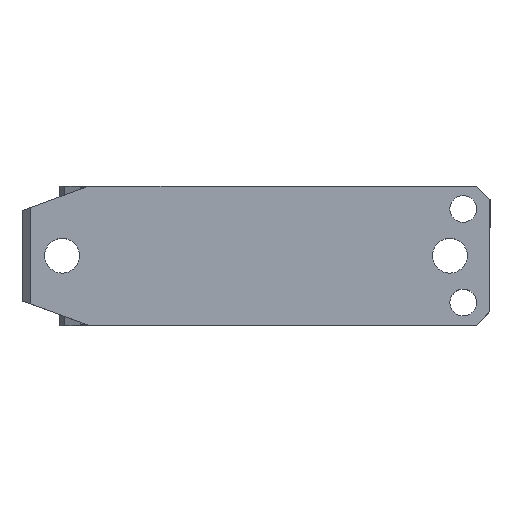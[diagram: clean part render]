
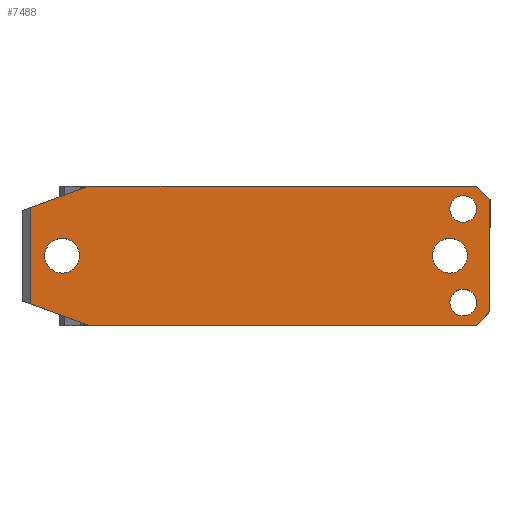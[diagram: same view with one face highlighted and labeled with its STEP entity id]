
A CAD part, top view. The second image highlights one B-rep face of the part: STEP entity #7488.
In plain terms, the highlighted planar face has unit normal (0, 0, 1).
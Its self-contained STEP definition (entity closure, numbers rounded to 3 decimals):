
#48 = LINE ( 'NONE', #1650, #9694 ) ;
#92 = ORIENTED_EDGE ( 'NONE', *, *, #5907, .F. ) ;
#173 = CARTESIAN_POINT ( 'NONE',  ( -2., 26., 125. ) ) ;
#316 = VERTEX_POINT ( 'NONE', #1385 ) ;
#355 = VERTEX_POINT ( 'NONE', #4183 ) ;
#535 = VERTEX_POINT ( 'NONE', #6760 ) ;
#564 = EDGE_LOOP ( 'NONE', ( #6400, #4810 ) ) ;
#631 = CARTESIAN_POINT ( 'NONE',  ( -27., 16.901, 125. ) ) ;
#697 = DIRECTION ( 'NONE',  ( -0.707, -0.707, 0. ) ) ;
#714 = VERTEX_POINT ( 'NONE', #7043 ) ;
#885 = DIRECTION ( 'NONE',  ( 0., 0., -1. ) ) ;
#901 = CARTESIAN_POINT ( 'NONE',  ( -18.5, 0., 125. ) ) ;
#917 = EDGE_CURVE ( 'NONE', #5890, #355, #1246, .T. ) ;
#1223 = CARTESIAN_POINT ( 'NONE',  ( 143., -26., 125. ) ) ;
#1246 = LINE ( 'NONE', #11989, #10893 ) ;
#1301 = ORIENTED_EDGE ( 'NONE', *, *, #3926, .F. ) ;
#1385 = CARTESIAN_POINT ( 'NONE',  ( 148., -21., 125. ) ) ;
#1395 = VERTEX_POINT ( 'NONE', #1564 ) ;
#1405 = VECTOR ( 'NONE', #6639, 1000. ) ;
#1430 = VECTOR ( 'NONE', #7908, 1000. ) ;
#1443 = VERTEX_POINT ( 'NONE', #2582 ) ;
#1564 = CARTESIAN_POINT ( 'NONE',  ( 148., 21., 125. ) ) ;
#1567 = DIRECTION ( 'NONE',  ( 0.94, 0.342, 0. ) ) ;
#1585 = CIRCLE ( 'NONE', #11521, 5. ) ;
#1638 = CARTESIAN_POINT ( 'NONE',  ( -27., -16.901, 125. ) ) ;
#1650 = CARTESIAN_POINT ( 'NONE',  ( 143., -26., 125. ) ) ;
#1773 = VECTOR ( 'NONE', #5892, 1000. ) ;
#1840 = ORIENTED_EDGE ( 'NONE', *, *, #9714, .T. ) ;
#1887 = EDGE_LOOP ( 'NONE', ( #3249, #7990, #1301, #1840, #3024, #6674, #92, #8008 ) ) ;
#1901 = EDGE_LOOP ( 'NONE', ( #6290, #4402 ) ) ;
#2106 = CARTESIAN_POINT ( 'NONE',  ( 126.5, 0., 125. ) ) ;
#2108 = EDGE_CURVE ( 'NONE', #7504, #2422, #8563, .T. ) ;
#2274 = CIRCLE ( 'NONE', #3007, 5. ) ;
#2422 = VERTEX_POINT ( 'NONE', #8388 ) ;
#2453 = FACE_BOUND ( 'NONE', #7433, .T. ) ;
#2560 = DIRECTION ( 'NONE',  ( -0.94, 0.342, 0. ) ) ;
#2582 = CARTESIAN_POINT ( 'NONE',  ( 143., -17.5, 125. ) ) ;
#2741 = FACE_OUTER_BOUND ( 'NONE', #1887, .T. ) ;
#2786 = CARTESIAN_POINT ( 'NONE',  ( 133., -17.5, 125. ) ) ;
#2828 = EDGE_CURVE ( 'NONE', #12075, #1443, #5611, .T. ) ;
#2882 = CARTESIAN_POINT ( 'NONE',  ( 148., 26., 125. ) ) ;
#2953 = EDGE_CURVE ( 'NONE', #7319, #535, #2274, .T. ) ;
#3007 = AXIS2_PLACEMENT_3D ( 'NONE', #6459, #885, #7393 ) ;
#3024 = ORIENTED_EDGE ( 'NONE', *, *, #3391, .F. ) ;
#3092 = CARTESIAN_POINT ( 'NONE',  ( 133., 0., 125. ) ) ;
#3162 = EDGE_CURVE ( 'NONE', #714, #11687, #9259, .T. ) ;
#3246 = CARTESIAN_POINT ( 'NONE',  ( -24., 17.993, 125. ) ) ;
#3248 = CARTESIAN_POINT ( 'NONE',  ( -27., 26., 125. ) ) ;
#3249 = ORIENTED_EDGE ( 'NONE', *, *, #5349, .F. ) ;
#3391 = EDGE_CURVE ( 'NONE', #316, #5762, #48, .T. ) ;
#3466 = ORIENTED_EDGE ( 'NONE', *, *, #9175, .T. ) ;
#3887 = PLANE ( 'NONE',  #10014 ) ;
#3893 = CARTESIAN_POINT ( 'NONE',  ( 138., -17.5, 125. ) ) ;
#3926 = EDGE_CURVE ( 'NONE', #4140, #355, #11901, .T. ) ;
#4002 = DIRECTION ( 'NONE',  ( 0., 0., -1. ) ) ;
#4020 = DIRECTION ( 'NONE',  ( -1., 0., 0. ) ) ;
#4140 = VERTEX_POINT ( 'NONE', #9356 ) ;
#4147 = EDGE_CURVE ( 'NONE', #10920, #8003, #4864, .T. ) ;
#4175 = DIRECTION ( 'NONE',  ( 0., 0., -1. ) ) ;
#4183 = CARTESIAN_POINT ( 'NONE',  ( -24., -17.993, 125. ) ) ;
#4402 = ORIENTED_EDGE ( 'NONE', *, *, #3162, .T. ) ;
#4425 = VECTOR ( 'NONE', #2560, 1000. ) ;
#4465 = CIRCLE ( 'NONE', #6433, 6.5 ) ;
#4741 = DIRECTION ( 'NONE',  ( 1., 0., 0. ) ) ;
#4743 = DIRECTION ( 'NONE',  ( 0., 0., -1. ) ) ;
#4810 = ORIENTED_EDGE ( 'NONE', *, *, #2953, .T. ) ;
#4838 = DIRECTION ( 'NONE',  ( 0., 0., -1. ) ) ;
#4842 = DIRECTION ( 'NONE',  ( -1., 0., 0. ) ) ;
#4864 = CIRCLE ( 'NONE', #8744, 6.5 ) ;
#4911 = FACE_BOUND ( 'NONE', #5230, .T. ) ;
#5230 = EDGE_LOOP ( 'NONE', ( #10039, #3466 ) ) ;
#5307 = DIRECTION ( 'NONE',  ( 0., 0., -1. ) ) ;
#5349 = EDGE_CURVE ( 'NONE', #5890, #7504, #9806, .T. ) ;
#5508 = CARTESIAN_POINT ( 'NONE',  ( 133., 0., 125. ) ) ;
#5611 = CIRCLE ( 'NONE', #7634, 5. ) ;
#5628 = VECTOR ( 'NONE', #4741, 1000. ) ;
#5706 = ORIENTED_EDGE ( 'NONE', *, *, #5993, .T. ) ;
#5762 = VERTEX_POINT ( 'NONE', #1223 ) ;
#5890 = VERTEX_POINT ( 'NONE', #3246 ) ;
#5892 = DIRECTION ( 'NONE',  ( 0.707, -0.707, 0. ) ) ;
#5907 = EDGE_CURVE ( 'NONE', #2422, #1395, #6721, .T. ) ;
#5993 = EDGE_CURVE ( 'NONE', #8003, #10920, #10819, .T. ) ;
#6290 = ORIENTED_EDGE ( 'NONE', *, *, #9818, .T. ) ;
#6347 = LINE ( 'NONE', #2882, #1405 ) ;
#6400 = ORIENTED_EDGE ( 'NONE', *, *, #11134, .T. ) ;
#6433 = AXIS2_PLACEMENT_3D ( 'NONE', #5508, #12068, #6458 ) ;
#6458 = DIRECTION ( 'NONE',  ( -1., 0., 0. ) ) ;
#6459 = CARTESIAN_POINT ( 'NONE',  ( 138., 17.5, 125. ) ) ;
#6639 = DIRECTION ( 'NONE',  ( 0., -1., 0. ) ) ;
#6674 = ORIENTED_EDGE ( 'NONE', *, *, #11008, .F. ) ;
#6721 = LINE ( 'NONE', #11503, #1773 ) ;
#6760 = CARTESIAN_POINT ( 'NONE',  ( 133., 17.5, 125. ) ) ;
#7043 = CARTESIAN_POINT ( 'NONE',  ( 139.5, 0., 125. ) ) ;
#7202 = AXIS2_PLACEMENT_3D ( 'NONE', #9609, #4002, #10563 ) ;
#7319 = VERTEX_POINT ( 'NONE', #11101 ) ;
#7393 = DIRECTION ( 'NONE',  ( -1., 0., 0. ) ) ;
#7433 = EDGE_LOOP ( 'NONE', ( #8628, #5706 ) ) ;
#7488 = ADVANCED_FACE ( 'NONE', ( #4911, #9899, #2453, #12100, #2741 ), #3887, .F. ) ;
#7504 = VERTEX_POINT ( 'NONE', #173 ) ;
#7634 = AXIS2_PLACEMENT_3D ( 'NONE', #10927, #5307, #11873 ) ;
#7908 = DIRECTION ( 'NONE',  ( 1., 0., 0. ) ) ;
#7990 = ORIENTED_EDGE ( 'NONE', *, *, #917, .T. ) ;
#8003 = VERTEX_POINT ( 'NONE', #8407 ) ;
#8008 = ORIENTED_EDGE ( 'NONE', *, *, #2108, .F. ) ;
#8124 = LINE ( 'NONE', #10351, #5628 ) ;
#8277 = AXIS2_PLACEMENT_3D ( 'NONE', #9786, #4175, #10728 ) ;
#8388 = CARTESIAN_POINT ( 'NONE',  ( 143., 26., 125. ) ) ;
#8407 = CARTESIAN_POINT ( 'NONE',  ( -5.5, 0., 125. ) ) ;
#8563 = LINE ( 'NONE', #3248, #1430 ) ;
#8628 = ORIENTED_EDGE ( 'NONE', *, *, #4147, .T. ) ;
#8744 = AXIS2_PLACEMENT_3D ( 'NONE', #10356, #4743, #11283 ) ;
#9175 = EDGE_CURVE ( 'NONE', #1443, #12075, #1585, .T. ) ;
#9259 = CIRCLE ( 'NONE', #9919, 6.5 ) ;
#9356 = CARTESIAN_POINT ( 'NONE',  ( -2., -26., 125. ) ) ;
#9484 = CARTESIAN_POINT ( 'NONE',  ( -27., 26., 125. ) ) ;
#9497 = VECTOR ( 'NONE', #1567, 1000. ) ;
#9609 = CARTESIAN_POINT ( 'NONE',  ( 138., 17.5, 125. ) ) ;
#9628 = DIRECTION ( 'NONE',  ( 0., 0., -1. ) ) ;
#9694 = VECTOR ( 'NONE', #697, 1000. ) ;
#9714 = EDGE_CURVE ( 'NONE', #4140, #5762, #8124, .T. ) ;
#9786 = CARTESIAN_POINT ( 'NONE',  ( -12., 0., 125. ) ) ;
#9806 = LINE ( 'NONE', #631, #9497 ) ;
#9818 = EDGE_CURVE ( 'NONE', #11687, #714, #4465, .T. ) ;
#9899 = FACE_BOUND ( 'NONE', #564, .T. ) ;
#9919 = AXIS2_PLACEMENT_3D ( 'NONE', #3092, #9628, #4020 ) ;
#10014 = AXIS2_PLACEMENT_3D ( 'NONE', #9484, #4838, #11374 ) ;
#10039 = ORIENTED_EDGE ( 'NONE', *, *, #2828, .T. ) ;
#10141 = DIRECTION ( 'NONE',  ( 0., -1., 0. ) ) ;
#10160 = CIRCLE ( 'NONE', #7202, 5. ) ;
#10351 = CARTESIAN_POINT ( 'NONE',  ( -27., -26., 125. ) ) ;
#10356 = CARTESIAN_POINT ( 'NONE',  ( -12., 0., 125. ) ) ;
#10441 = DIRECTION ( 'NONE',  ( 0., 0., -1. ) ) ;
#10563 = DIRECTION ( 'NONE',  ( -1., 0., 0. ) ) ;
#10728 = DIRECTION ( 'NONE',  ( -1., 0., 0. ) ) ;
#10819 = CIRCLE ( 'NONE', #8277, 6.5 ) ;
#10893 = VECTOR ( 'NONE', #10141, 1000. ) ;
#10920 = VERTEX_POINT ( 'NONE', #901 ) ;
#10927 = CARTESIAN_POINT ( 'NONE',  ( 138., -17.5, 125. ) ) ;
#11008 = EDGE_CURVE ( 'NONE', #1395, #316, #6347, .T. ) ;
#11101 = CARTESIAN_POINT ( 'NONE',  ( 143., 17.5, 125. ) ) ;
#11134 = EDGE_CURVE ( 'NONE', #535, #7319, #10160, .T. ) ;
#11283 = DIRECTION ( 'NONE',  ( -1., 0., 0. ) ) ;
#11374 = DIRECTION ( 'NONE',  ( -1., 0., 0. ) ) ;
#11503 = CARTESIAN_POINT ( 'NONE',  ( 143., 26., 125. ) ) ;
#11521 = AXIS2_PLACEMENT_3D ( 'NONE', #3893, #10441, #4842 ) ;
#11687 = VERTEX_POINT ( 'NONE', #2106 ) ;
#11873 = DIRECTION ( 'NONE',  ( -1., 0., 0. ) ) ;
#11901 = LINE ( 'NONE', #1638, #4425 ) ;
#11989 = CARTESIAN_POINT ( 'NONE',  ( -24., 26., 125. ) ) ;
#12068 = DIRECTION ( 'NONE',  ( 0., 0., -1. ) ) ;
#12075 = VERTEX_POINT ( 'NONE', #2786 ) ;
#12100 = FACE_BOUND ( 'NONE', #1901, .T. ) ;
